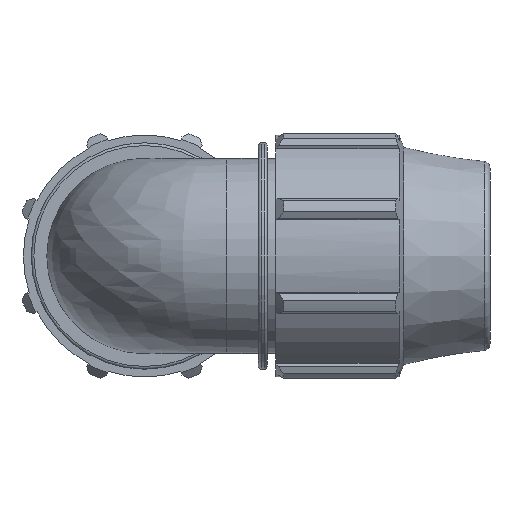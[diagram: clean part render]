
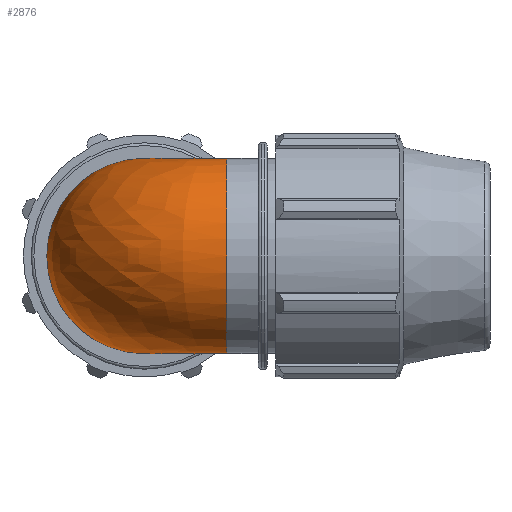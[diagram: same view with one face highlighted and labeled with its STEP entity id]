
A CAD part, front view. The second image highlights one B-rep face of the part: STEP entity #2876.
In plain terms, the highlighted free-form (B-spline) face has degree [2, 2] with [9, 3] control points.
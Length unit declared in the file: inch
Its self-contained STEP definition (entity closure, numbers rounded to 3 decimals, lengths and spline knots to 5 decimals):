
#560=(
BOUNDED_SURFACE()
B_SPLINE_SURFACE(2,2,((#4199,#4200,#4201),(#4202,#4203,#4204),(#4205,#4206,
#4207),(#4208,#4209,#4210),(#4211,#4212,#4213),(#4214,#4215,#4216),(#4217,
#4218,#4219),(#4220,#4221,#4222),(#4223,#4224,#4225)),.UNSPECIFIED.,.F.,
 .F.,.F.)
B_SPLINE_SURFACE_WITH_KNOTS((3,2,2,2,3),(3,3),(-2.57197,-1.28599,
0.,1.28599,2.57197),(-1.5708,0.),
 .UNSPECIFIED.)
GEOMETRIC_REPRESENTATION_ITEM()
RATIONAL_B_SPLINE_SURFACE(((1.,0.707,1.),(0.8,
0.566,0.8),(1.,0.707,1.),(0.8,
0.566,0.8),(1.,0.707,1.),(0.8,
0.566,0.8),(1.,0.707,1.),(0.8,
0.566,0.8),(1.,0.707,1.)))
REPRESENTATION_ITEM('')
SURFACE()
);
#583=FACE_OUTER_BOUND('',#733,.T.);
#733=EDGE_LOOP('',(#1794,#1795,#1796));
#897=CIRCLE('',#3053,1.21125);
#898=CIRCLE('',#3054,1.21125);
#899=CIRCLE('',#3055,1.21125);
#1056=VERTEX_POINT('',#4226);
#1057=VERTEX_POINT('',#4227);
#1058=VERTEX_POINT('',#4229);
#1355=EDGE_CURVE('',#1056,#1057,#897,.T.);
#1356=EDGE_CURVE('',#1058,#1056,#898,.T.);
#1357=EDGE_CURVE('',#1057,#1058,#899,.T.);
#1794=ORIENTED_EDGE('',*,*,#1355,.F.);
#1795=ORIENTED_EDGE('',*,*,#1356,.F.);
#1796=ORIENTED_EDGE('',*,*,#1357,.F.);
#2876=ADVANCED_FACE('',(#583),#560,.F.);
#3053=AXIS2_PLACEMENT_3D('',#4228,#3376,#3377);
#3054=AXIS2_PLACEMENT_3D('',#4230,#3378,#3379);
#3055=AXIS2_PLACEMENT_3D('',#4231,#3380,#3381);
#3376=DIRECTION('center_axis',(1.,0.,0.));
#3377=DIRECTION('ref_axis',(0.,0.,-1.));
#3378=DIRECTION('center_axis',(0.,1.,0.));
#3379=DIRECTION('ref_axis',(0.,0.,-1.));
#3380=DIRECTION('center_axis',(1.,0.,0.));
#3381=DIRECTION('ref_axis',(0.,0.,-1.));
#4199=CARTESIAN_POINT('Ctrl Pts',(1.02,1.02,0.65324));
#4200=CARTESIAN_POINT('Ctrl Pts',(1.02,1.02,0.65324));
#4201=CARTESIAN_POINT('Ctrl Pts',(1.02,1.02,0.65324));
#4202=CARTESIAN_POINT('Ctrl Pts',(1.02,0.53059,1.41743));
#4203=CARTESIAN_POINT('Ctrl Pts',(0.53059,0.53059,1.41743));
#4204=CARTESIAN_POINT('Ctrl Pts',(0.53059,1.02,1.41743));
#4205=CARTESIAN_POINT('Ctrl Pts',(1.02,-0.34033,1.16245));
#4206=CARTESIAN_POINT('Ctrl Pts',(-0.34033,-0.34033,
1.16245));
#4207=CARTESIAN_POINT('Ctrl Pts',(-0.34033,1.02,1.16245));
#4208=CARTESIAN_POINT('Ctrl Pts',(1.02,-1.21125,0.90748));
#4209=CARTESIAN_POINT('Ctrl Pts',(-1.21125,-1.21125,0.90748));
#4210=CARTESIAN_POINT('Ctrl Pts',(-1.21125,1.02,0.90748));
#4211=CARTESIAN_POINT('Ctrl Pts',(1.02,-1.21125,0.));
#4212=CARTESIAN_POINT('Ctrl Pts',(-1.21125,-1.21125,0.));
#4213=CARTESIAN_POINT('Ctrl Pts',(-1.21125,1.02,0.));
#4214=CARTESIAN_POINT('Ctrl Pts',(1.02,-1.21125,-0.90748));
#4215=CARTESIAN_POINT('Ctrl Pts',(-1.21125,-1.21125,-0.90748));
#4216=CARTESIAN_POINT('Ctrl Pts',(-1.21125,1.02,-0.90748));
#4217=CARTESIAN_POINT('Ctrl Pts',(1.02,-0.34033,-1.16245));
#4218=CARTESIAN_POINT('Ctrl Pts',(-0.34033,-0.34033,
-1.16245));
#4219=CARTESIAN_POINT('Ctrl Pts',(-0.34033,1.02,-1.16245));
#4220=CARTESIAN_POINT('Ctrl Pts',(1.02,0.53059,-1.41743));
#4221=CARTESIAN_POINT('Ctrl Pts',(0.53059,0.53059,-1.41743));
#4222=CARTESIAN_POINT('Ctrl Pts',(0.53059,1.02,-1.41743));
#4223=CARTESIAN_POINT('Ctrl Pts',(1.02,1.02,-0.65324));
#4224=CARTESIAN_POINT('Ctrl Pts',(1.02,1.02,-0.65324));
#4225=CARTESIAN_POINT('Ctrl Pts',(1.02,1.02,-0.65324));
#4226=CARTESIAN_POINT('',(1.02,1.02,0.65324));
#4227=CARTESIAN_POINT('',(1.02,-1.21125,0.));
#4228=CARTESIAN_POINT('Origin',(1.02,0.,0.));
#4229=CARTESIAN_POINT('',(1.02,1.02,-0.65324));
#4230=CARTESIAN_POINT('Origin',(0.,1.02,0.));
#4231=CARTESIAN_POINT('Origin',(1.02,0.,0.));
